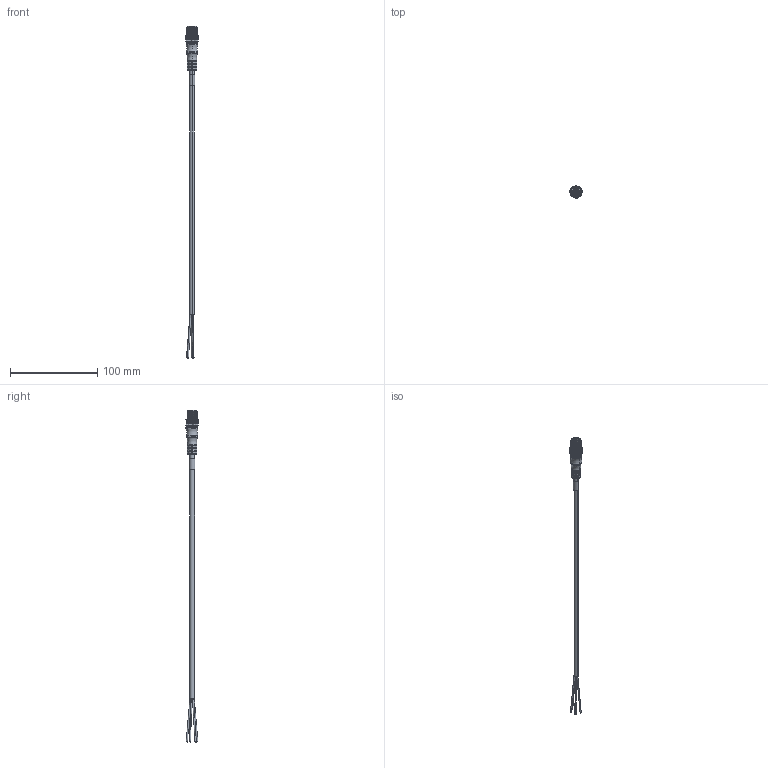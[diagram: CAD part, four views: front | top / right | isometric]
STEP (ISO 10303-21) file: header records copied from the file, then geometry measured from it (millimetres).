
FILE_DESCRIPTION((''),'2;1');
FILE_NAME('889D-M4GC-2','2014-01-01T',('20019289'),('Rockwell Automation'),'PRO/ENGINEER BY PARAMETRIC TECHNOLOGY CORPORATION, 2009460','PRO/ENGINEER BY PARAMETRIC TECHNOLOGY CORPORATION, 2009460','');
FILE_SCHEMA(('CONFIG_CONTROL_DESIGN'));
Length unit declared in the file: inch
Products named in the file (1): 889D-M4GC-2
Bounding box: 14.01 x 14.23 x 380.11 mm (x, y, z)
Volume: 11985.9 mm3; surface area: 9017.6 mm2
Topology: 1 solids, 1 shells, 528 faces, 1323 edges, 817 vertices
Faces by surface type: plane 234, cylinder 214, cone 54, torus 26
Entity records: 16068 total; most frequent: CARTESIAN_POINT 3213, DIRECTION 2809, ORIENTED_EDGE 2646, EDGE_CURVE 1323, AXIS2_PLACEMENT_3D 1072, VERTEX_POINT 817, VECTOR 665, LINE 665
